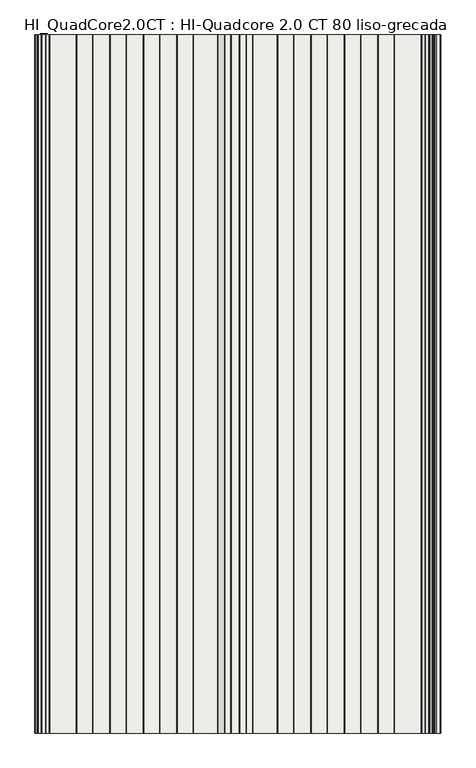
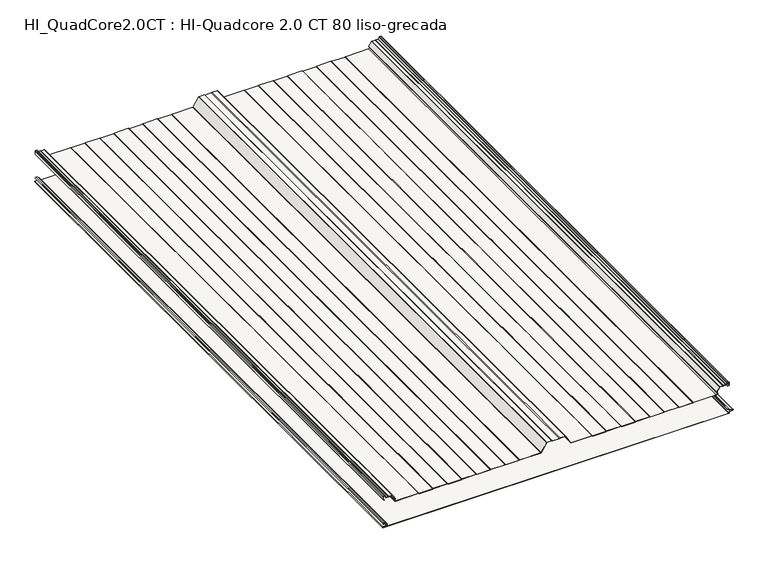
"""IFC4 building model written with IfcOpenShell, lengths in millimetres: slab geometry, HI_QuadCore2.0CT : HI-Quadcore 2.0 CT 80 liso-grecada."""

from ifc_helpers import new_model, si_unit, point, frame, frame_2d, origin, place, context, project, spatial, polyline, circle_curve, trimmed, segment, composite_curve, outline, extrude, source, transform, mapped, element, save
from ifc_brep_helpers import plane_surface, cylinder_surface, revolved_surface, advanced_brep


def hi_quadcore2_0ct_hi_quadcore_2_0_ct_80_liso_grecada_a5f406dc(model_context):
    return source(origin(), model_context, "Body", "SolidModel", [
        advanced_brep(
        [(1153.6125412, 0.0, 16.239302), (1151.6320413, 0.0, 14.2588021), (1153.3026044, 0.0, 12.2960661), (1161.7027672, 0.0, 10.9645747), (1161.6806488, 0.0, 5.2720118), (1151.7277556, 0.0, 3.7755366), (1152.0100062, 0.0, 0.0), (2297.9590685, 0.0, 0.0), (2300.1391392, 0.0, 2.1800708), (2302.6636211, 0.0, 5.0353254), (2310.9083654, 0.0, 6.0356531), (2310.9083654, 0.0, 10.2043469), (2300.9419234, 0.0, 11.413338), (2298.6324398, 0.0, 14.0237344), (2297.5187526, 0.0, 16.24), (2292.7624398, 0.0, 16.24), (2292.7624398, 0.0, 15.44), (2297.2282701, 0.0, 15.44), (2297.8324398, 0.0, 14.0237344), (2300.8450446, 0.0, 10.6192254), (2310.7843299, 0.0, 9.4135286), (2310.7843221, 0.0, 6.8264698), (2302.5664905, 0.0, 5.8294074), (2299.3391392, 0.0, 2.1800708), (2297.9590685, 0.0, 0.8), (1152.0100062, 0.0, 0.8), (1151.8467032, 0.0, 2.9844289), (1161.7995989, 0.0, 4.4809044), (1161.8278581, 0.0, 11.7547343), (1153.4279307, 0.0, 13.084535), (1152.4319301, 0.0, 14.2584682), (1153.6125693, 0.0, 15.4391074), (1157.510215, 0.0, 15.4391074), (1157.510215, 0.0, 16.239302), (1153.6125412, 2000.0, 16.239302), (1157.510215, 2000.0, 16.239302), (1157.510215, 2000.0, 15.4391074), (1153.6125693, 2000.0, 15.4391074), (1152.4319301, 2000.0, 14.2584682), (1153.4276302, 2000.0, 13.0866965), (1161.8278581, 2000.0, 11.7547343), (1161.7995989, 2000.0, 4.4809044), (1151.8467032, 2000.0, 2.9844289), (1152.0100062, 2000.0, 0.8), (2297.9590685, 2000.0, 0.8), (2299.3391392, 2000.0, 2.1800708), (2302.5664905, 2000.0, 5.8294074), (2310.7843221, 2000.0, 6.8264698), (2310.7843299, 2000.0, 9.4135286), (2300.8450446, 2000.0, 10.6192254), (2297.8324398, 2000.0, 14.0237344), (2297.2282701, 2000.0, 15.44), (2292.7624398, 2000.0, 15.44), (2292.7624398, 2000.0, 16.24), (2297.5187526, 2000.0, 16.24), (2298.6324398, 2000.0, 14.0237344), (2300.9419234, 2000.0, 11.413338), (2310.9083654, 2000.0, 10.2043469), (2310.9083654, 2000.0, 6.0356531), (2302.6636211, 2000.0, 5.0353254), (2300.1391392, 2000.0, 2.1800708), (2297.9590685, 2000.0, 0.0), (1152.0100062, 2000.0, 0.0), (1151.7277556, 2000.0, 3.7755366), (1161.6806488, 2000.0, 5.2720118), (1161.7027672, 2000.0, 10.9645747), (1153.3028397, 2000.0, 12.2943753), (1151.6320413, 2000.0, 14.2588021)],
        [
            (0, 1, circle_curve(frame((1153.6125412, 0.0, 14.2588021), z_axis=(0.0, -1.0, 0.0), x_axis=(1.0, 0.0, 0.0)), 1.9804999)),
            (1, 2, circle_curve(frame((1153.612237, 0.0, 14.2519163), z_axis=(0.0, -1.0, 0.0), x_axis=(1.0, 0.0, 0.0)), 1.9802076)),
            (2, 3),
            (3, 4, circle_curve(frame((1161.2524398, 0.0, 8.12), z_axis=(0.0, 1.0, 0.0), x_axis=(1.0, 0.0, 0.0)), 2.88)),
            (4, 5),
            (5, 6, circle_curve(frame((1152.0100062, 0.0, 1.8983185), z_axis=(0.0, -1.0, 0.0), x_axis=(1.0, 0.0, 0.0)), 1.8983185)),
            (6, 7),
            (7, 8, circle_curve(frame((2297.9590685, 0.0, 2.1800708), z_axis=(0.0, -1.0, 0.0), x_axis=(1.0, 0.0, 0.0)), 2.1800708)),
            (8, 9, circle_curve(frame((2303.0160638, 0.0, 2.1800708), z_axis=(0.0, 1.0, 0.0), x_axis=(1.0, 0.0, 0.0)), 2.8769246)),
            (9, 10),
            (10, 11, circle_curve(frame((2310.5224398, 0.0, 8.12), z_axis=(0.0, -1.0, 0.0), x_axis=(1.0, 0.0, 0.0)), 2.1197737)),
            (11, 12),
            (12, 13, circle_curve(frame((2301.2624398, 0.0, 14.0237344), z_axis=(0.0, 1.0, 0.0), x_axis=(1.0, 0.0, 0.0)), 2.63)),
            (13, 14, circle_curve(frame((2295.8703839, 0.0, 14.0237344), z_axis=(0.0, -1.0, 0.0), x_axis=(1.0, 0.0, 0.0)), 2.7620559)),
            (14, 15),
            (15, 16),
            (16, 17),
            (17, 18, circle_curve(frame((2295.8703839, 0.0, 14.0237344), z_axis=(0.0, 1.0, 0.0), x_axis=(1.0, 0.0, 0.0)), 1.9620559)),
            (18, 19, circle_curve(frame((2301.2624398, 0.0, 14.0237344), z_axis=(0.0, -1.0, 0.0), x_axis=(1.0, 0.0, 0.0)), 3.43)),
            (19, 20),
            (20, 21, circle_curve(frame((2310.5224398, 0.0, 8.12), z_axis=(0.0, 1.0, 0.0), x_axis=(1.0, 0.0, 0.0)), 1.3197737)),
            (21, 22),
            (22, 23, circle_curve(frame((2303.0160638, 0.0, 2.1800708), z_axis=(0.0, -1.0, 0.0), x_axis=(1.0, 0.0, 0.0)), 3.6769246)),
            (23, 24, circle_curve(frame((2297.9590685, 0.0, 2.1800708), z_axis=(0.0, 1.0, 0.0), x_axis=(1.0, 0.0, 0.0)), 1.3800708)),
            (24, 25),
            (25, 26, circle_curve(frame((1152.0100062, 0.0, 1.8983185), z_axis=(0.0, 1.0, 0.0), x_axis=(1.0, 0.0, 0.0)), 1.0983185)),
            (26, 27),
            (27, 28, circle_curve(frame((1161.2524398, 0.0, 8.12), z_axis=(0.0, -1.0, 0.0), x_axis=(1.0, 0.0, 0.0)), 3.68)),
            (28, 29),
            (29, 30, circle_curve(frame((1153.6121809, 0.0, 14.2524448), z_axis=(0.0, 1.0, 0.0), x_axis=(1.0, 0.0, 0.0)), 1.1802661)),
            (30, 31, circle_curve(frame((1153.6125693, 0.0, 14.2584682), z_axis=(0.0, 1.0, 0.0), x_axis=(1.0, 0.0, 0.0)), 1.1806391)),
            (31, 32),
            (32, 33),
            (33, 0),
            (34, 35),
            (35, 36),
            (36, 37),
            (37, 38, circle_curve(frame((1153.6125693, 2000.0, 14.2584682), z_axis=(0.0, -1.0, 0.0), x_axis=(1.0, 0.0, 0.0)), 1.1806391)),
            (38, 39, circle_curve(frame((1153.6121809, 2000.0, 14.2524448), z_axis=(0.0, -1.0, 0.0), x_axis=(1.0, 0.0, 0.0)), 1.1802661)),
            (39, 40),
            (40, 41, circle_curve(frame((1161.2524398, 2000.0, 8.12), z_axis=(0.0, 1.0, 0.0), x_axis=(1.0, 0.0, 0.0)), 3.68)),
            (41, 42),
            (42, 43, circle_curve(frame((1152.0100062, 2000.0, 1.8983185), z_axis=(0.0, -1.0, 0.0), x_axis=(1.0, 0.0, 0.0)), 1.0983185)),
            (43, 44),
            (44, 45, circle_curve(frame((2297.9590685, 2000.0, 2.1800708), z_axis=(0.0, -1.0, 0.0), x_axis=(1.0, 0.0, 0.0)), 1.3800708)),
            (45, 46, circle_curve(frame((2303.0160638, 2000.0, 2.1800708), z_axis=(0.0, 1.0, 0.0), x_axis=(1.0, 0.0, 0.0)), 3.6769246)),
            (46, 47),
            (47, 48, circle_curve(frame((2310.5224398, 2000.0, 8.12), z_axis=(0.0, -1.0, 0.0), x_axis=(1.0, 0.0, 0.0)), 1.3197737)),
            (48, 49),
            (49, 50, circle_curve(frame((2301.2624398, 2000.0, 14.0237344), z_axis=(0.0, 1.0, 0.0), x_axis=(1.0, 0.0, 0.0)), 3.43)),
            (50, 51, circle_curve(frame((2295.8703839, 2000.0, 14.0237344), z_axis=(0.0, -1.0, 0.0), x_axis=(1.0, 0.0, 0.0)), 1.9620559)),
            (51, 52),
            (52, 53),
            (53, 54),
            (54, 55, circle_curve(frame((2295.8703839, 2000.0, 14.0237344), z_axis=(0.0, 1.0, 0.0), x_axis=(1.0, 0.0, 0.0)), 2.7620559)),
            (55, 56, circle_curve(frame((2301.2624398, 2000.0, 14.0237344), z_axis=(0.0, -1.0, 0.0), x_axis=(1.0, 0.0, 0.0)), 2.63)),
            (56, 57),
            (57, 58, circle_curve(frame((2310.5224398, 2000.0, 8.12), z_axis=(0.0, 1.0, 0.0), x_axis=(1.0, 0.0, 0.0)), 2.1197737)),
            (58, 59),
            (59, 60, circle_curve(frame((2303.0160638, 2000.0, 2.1800708), z_axis=(0.0, -1.0, 0.0), x_axis=(1.0, 0.0, 0.0)), 2.8769246)),
            (60, 61, circle_curve(frame((2297.9590685, 2000.0, 2.1800708), z_axis=(0.0, 1.0, 0.0), x_axis=(1.0, 0.0, 0.0)), 2.1800708)),
            (61, 62),
            (62, 63, circle_curve(frame((1152.0100062, 2000.0, 1.8983185), z_axis=(0.0, 1.0, 0.0), x_axis=(1.0, 0.0, 0.0)), 1.8983185)),
            (63, 64),
            (64, 65, circle_curve(frame((1161.2524398, 2000.0, 8.12), z_axis=(0.0, -1.0, 0.0), x_axis=(1.0, 0.0, 0.0)), 2.88)),
            (65, 66),
            (66, 67, circle_curve(frame((1153.612237, 2000.0, 14.2519163), z_axis=(0.0, 1.0, 0.0), x_axis=(1.0, 0.0, 0.0)), 1.9802076)),
            (67, 34, circle_curve(frame((1153.6125412, 2000.0, 14.2588021), z_axis=(0.0, 1.0, 0.0), x_axis=(1.0, 0.0, 0.0)), 1.9804999)),
            (0, 34),
            (67, 1),
            (66, 2),
            (65, 3),
            (64, 4),
            (63, 5),
            (62, 6),
            (61, 7),
            (60, 8),
            (59, 9),
            (58, 10),
            (57, 11),
            (56, 12),
            (55, 13),
            (54, 14),
            (53, 15),
            (52, 16),
            (51, 17),
            (50, 18),
            (49, 19),
            (48, 20),
            (47, 21),
            (46, 22),
            (45, 23),
            (44, 24),
            (43, 25),
            (42, 26),
            (41, 27),
            (40, 28),
            (39, 29),
            (38, 30),
            (37, 31),
            (36, 32),
            (35, 33),
        ],
        [
            plane_surface(frame((1155.5930411, 0.0, 14.2588021), z_axis=(0.0, -1.0, 0.0), x_axis=(0.0, 0.0, 1.0))),
            plane_surface(frame((1155.5930411, 2000.0, 14.2588021), z_axis=(0.0, 1.0, 0.0), x_axis=(0.0, 0.0, -1.0))),
            cylinder_surface(frame((1153.6125412, 2000.0, 14.2588021), z_axis=(0.0, -1.0, 0.0), x_axis=(1.0, 0.0, 0.0)), 1.9804999),
            cylinder_surface(frame((1153.612237, 2000.0, 14.2519163), z_axis=(0.0, -1.0, 0.0), x_axis=(1.0, 0.0, 0.0)), 1.9802076),
            plane_surface(frame((1153.3028397, 0.0, 12.2943753), z_axis=(-0.15636367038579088, 0.0, -0.9876995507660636), x_axis=(0.0, 1.0, 0.0))),
            revolved_surface(polyline([(1164.1324398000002, 2000.0, 8.12), (1164.1324398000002, 0.0, 8.12)]), (1161.2524398, 2000.0, 8.12), (0.0, 1.0, 0.0)),
            plane_surface(frame((1161.6806488, 0.0, 5.2720118), z_axis=(-0.14868453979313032, 0.0, 0.9888846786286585), x_axis=(0.0, 1.0, 0.0))),
            cylinder_surface(frame((1152.0100062, 2000.0, 1.8983185), z_axis=(0.0, -1.0, 0.0), x_axis=(1.0, 0.0, 0.0)), 1.8983185),
            plane_surface(frame((1152.0100062, 0.0, 0.0), z_axis=(0.0, 0.0, -1.0), x_axis=(0.0, 1.0, 0.0))),
            cylinder_surface(frame((2297.9590685, 2000.0, 2.1800708), z_axis=(0.0, -1.0, 0.0), x_axis=(1.0, 0.0, 0.0)), 2.1800708),
            revolved_surface(polyline([(2305.8929884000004, 2000.0, 2.1800708), (2305.8929884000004, 0.0, 2.1800708)]), (2303.0160638, 2000.0, 2.1800708), (0.0, 1.0, 0.0)),
            plane_surface(frame((2302.6636211, 0.0, 5.0353254), z_axis=(0.12044584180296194, 0.0, -0.9927198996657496), x_axis=(0.0, 1.0, 0.0))),
            cylinder_surface(frame((2310.5224398, 2000.0, 8.12), z_axis=(0.0, -1.0, 0.0), x_axis=(1.0, 0.0, 0.0)), 2.1197737),
            plane_surface(frame((2310.9083654, 0.0, 10.2043469), z_axis=(0.12042339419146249, 0.0, 0.9927226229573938), x_axis=(0.0, 1.0, 0.0))),
            revolved_surface(polyline([(2303.8924398, 2000.0, 14.0237344), (2303.8924398, 0.0, 14.0237344)]), (2301.2624398, 2000.0, 14.0237344), (0.0, 1.0, 0.0)),
            cylinder_surface(frame((2295.8703839, 2000.0, 14.0237344), z_axis=(0.0, -1.0, 0.0), x_axis=(1.0, 0.0, 0.0)), 2.7620559),
            plane_surface(frame((2297.5187526, 0.0, 16.24), z_axis=(0.0, 0.0, 1.0), x_axis=(0.0, 1.0, 0.0))),
            plane_surface(frame((2292.7624398, 0.0, 16.24), z_axis=(-1.0, 0.0, 0.0), x_axis=(0.0, 1.0, 0.0))),
            plane_surface(frame((2292.7624398, 0.0, 15.44), z_axis=(0.0, 0.0, -1.0), x_axis=(0.0, 1.0, 0.0))),
            revolved_surface(polyline([(2297.8324398, 2000.0, 14.0237344), (2297.8324398, 0.0, 14.0237344)]), (2295.8703839, 2000.0, 14.0237344), (0.0, 1.0, 0.0)),
            cylinder_surface(frame((2301.2624398, 2000.0, 14.0237344), z_axis=(0.0, -1.0, 0.0), x_axis=(1.0, 0.0, 0.0)), 3.43),
            plane_surface(frame((2300.8450446, 0.0, 10.6192254), z_axis=(-0.12042339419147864, 0.0, -0.9927226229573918), x_axis=(0.0, 1.0, 0.0))),
            revolved_surface(polyline([(2311.8422135, 2000.0, 8.12), (2311.8422135, 0.0, 8.12)]), (2310.5224398, 2000.0, 8.12), (0.0, 1.0, 0.0)),
            plane_surface(frame((2310.7843221, 0.0, 6.8264698), z_axis=(-0.12044584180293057, 0.0, 0.9927198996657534), x_axis=(0.0, 1.0, 0.0))),
            cylinder_surface(frame((2303.0160638, 2000.0, 2.1800708), z_axis=(0.0, -1.0, 0.0), x_axis=(1.0, 0.0, 0.0)), 3.6769246),
            revolved_surface(polyline([(2299.3391392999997, 2000.0, 2.1800708), (2299.3391392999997, 0.0, 2.1800708)]), (2297.9590685, 2000.0, 2.1800708), (0.0, 1.0, 0.0)),
            plane_surface(frame((2297.9590685, 0.0, 0.8), z_axis=(0.0, 0.0, 1.0), x_axis=(0.0, 1.0, 0.0))),
            revolved_surface(polyline([(1153.1083247, 2000.0, 1.8983185), (1153.1083247, 0.0, 1.8983185)]), (1152.0100062, 2000.0, 1.8983185), (0.0, 1.0, 0.0)),
            plane_surface(frame((1151.8467032, 0.0, 2.9844289), z_axis=(0.14868453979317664, 0.0, -0.9888846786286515), x_axis=(0.0, 1.0, 0.0))),
            cylinder_surface(frame((1161.2524398, 2000.0, 8.12), z_axis=(0.0, -1.0, 0.0), x_axis=(1.0, 0.0, 0.0)), 3.68),
            plane_surface(frame((1161.8278581, 0.0, 11.7547343), z_axis=(0.15636367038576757, 0.0, 0.9876995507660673), x_axis=(0.0, 1.0, 0.0))),
            revolved_surface(polyline([(1154.792447, 2000.0, 14.2524448), (1154.792447, 0.0, 14.2524448)]), (1153.6121809, 2000.0, 14.2524448), (0.0, 1.0, 0.0)),
            revolved_surface(polyline([(1154.7932084, 2000.0, 14.2584682), (1154.7932084, 0.0, 14.2584682)]), (1153.6125693, 2000.0, 14.2584682), (0.0, 1.0, 0.0)),
            plane_surface(frame((1153.6125693, 0.0, 15.4391074), z_axis=(0.0, 0.0, -1.0), x_axis=(0.0, 1.0, 0.0))),
            plane_surface(frame((1157.510215, 0.0, 15.4391074), z_axis=(1.0, 0.0, 0.0), x_axis=(0.0, 1.0, 0.0))),
            plane_surface(frame((1157.510215, 0.0, 16.239302), z_axis=(0.0, 0.0, 1.0), x_axis=(0.0, 1.0, 0.0))),
        ],
        [
            (0, [[1, 2, 3, 4, 5, 6, 7, 8, 9, 10, 11, 12, 13, 14, 15, 16, 17, 18, 19, 20, 21, 22, 23, 24, 25, 26, 27, 28, 29, 30, 31, 32, 33, 34]]),
            (1, [[35, 36, 37, 38, 39, 40, 41, 42, 43, 44, 45, 46, 47, 48, 49, 50, 51, 52, 53, 54, 55, 56, 57, 58, 59, 60, 61, 62, 63, 64, 65, 66, 67, 68]]),
            (2, [[-1, 69, -68, 70]]),
            (3, [[-2, -70, -67, 71]]),
            (4, [[-3, -71, -66, 72]]),
            (5, [[-4, -72, -65, 73]]),
            (6, [[-5, -73, -64, 74]]),
            (7, [[-6, -74, -63, 75]]),
            (8, [[-7, -75, -62, 76]]),
            (9, [[-8, -76, -61, 77]]),
            (10, [[-9, -77, -60, 78]]),
            (11, [[-10, -78, -59, 79]]),
            (12, [[-11, -79, -58, 80]]),
            (13, [[-12, -80, -57, 81]]),
            (14, [[-13, -81, -56, 82]]),
            (15, [[-14, -82, -55, 83]]),
            (16, [[-15, -83, -54, 84]]),
            (17, [[-16, -84, -53, 85]]),
            (18, [[-17, -85, -52, 86]]),
            (19, [[-18, -86, -51, 87]]),
            (20, [[-19, -87, -50, 88]]),
            (21, [[-20, -88, -49, 89]]),
            (22, [[-21, -89, -48, 90]]),
            (23, [[-22, -90, -47, 91]]),
            (24, [[-23, -91, -46, 92]]),
            (25, [[-24, -92, -45, 93]]),
            (26, [[-25, -93, -44, 94]]),
            (27, [[-26, -94, -43, 95]]),
            (28, [[-27, -95, -42, 96]]),
            (29, [[-28, -96, -41, 97]]),
            (30, [[-29, -97, -40, 98]]),
            (31, [[-30, -98, -39, 99]]),
            (32, [[-31, -99, -38, 100]]),
            (33, [[-32, -100, -37, 101]]),
            (34, [[-33, -101, -36, 102]]),
            (35, [[-34, -102, -35, -69]]),
        ],
    ),
        extrude(outline(composite_curve([segment(polyline([(97.9163804, 1151.3824194), (95.7425833, 1155.1475465), (96.4354036, 1155.5475465), (98.6669358, 1151.6824194), (108.1, 1151.6824194)]), True, "CONTINUOUS"), segment(trimmed(circle_curve(frame_2d((108.1, 1152.7824194)), 1.1), [point((108.1, 1151.6824194))], [point((109.2, 1152.7824194))], True, "CARTESIAN"), True, "CONTINUOUS"), segment(polyline([(109.2, 1152.7824194), (109.2, 1156.3760168)]), True, "CONTINUOUS"), segment(trimmed(circle_curve(frame_2d((108.1, 1156.3760168)), 1.1), [point((109.2, 1156.3760168))], [point((108.5209518, 1157.3922843))], True, "CARTESIAN"), True, "CONTINUOUS"), segment(polyline([(108.5209518, 1157.3922843), (104.0383476, 1159.2490397)]), True, "CONTINUOUS"), segment(trimmed(circle_curve(frame_2d((104.93, 1161.4016791)), 2.33), [point((104.0383476, 1159.2490397))], [point((102.6, 1161.4016791))], False, "CARTESIAN"), True, "CONTINUOUS"), segment(polyline([(102.6, 1161.4016791), (102.6, 1168.1276514), (101.8110374, 1169.8324194), (102.6, 1171.5371875), (102.6, 1180.8643848)]), True, "CONTINUOUS"), segment(trimmed(circle_curve(frame_2d((101.5, 1180.8643848)), 1.1), [point((102.6, 1180.8643848))], [point((102.1230469, 1181.7709236))], True, "CARTESIAN"), True, "CONTINUOUS"), segment(polyline([(102.1230469, 1181.7709236), (88.5361221, 1191.1089583)]), True, "CONTINUOUS"), segment(trimmed(circle_curve(frame_2d((87.9130752, 1190.2024195)), 1.1), [point((88.5361221, 1191.1089583))], [point((87.0692788, 1190.9081159))], True, "CARTESIAN"), True, "CONTINUOUS"), segment(polyline([(87.0692788, 1190.9081159), (86.2744555, 1189.9577511)]), True, "CONTINUOUS"), segment(trimmed(circle_curve(frame_2d((83.3, 1192.7795617)), 4.1), [point((86.2744555, 1189.9577511))], [point((79.2, 1192.7795617))], False, "CARTESIAN"), True, "CONTINUOUS"), segment(polyline([(79.2, 1192.7795617), (79.2, 1268.8832267), (78.2, 1270.6152775), (78.2, 1315.6495614), (79.2, 1317.3816122), (79.2, 1364.8832267), (78.2, 1366.6152775), (78.2, 1411.6495614), (79.2, 1413.3816122), (79.2, 1460.8832267), (78.2, 1462.6152775), (78.2, 1507.6495614), (79.2, 1509.3816122), (79.2, 1556.8832267), (78.2, 1558.6152775), (78.2, 1603.6495614), (79.2, 1605.3816122), (79.2, 1674.3619266)]), True, "CONTINUOUS"), segment(trimmed(circle_curve(frame_2d((81.53, 1674.3619266)), 2.33), [point((79.2, 1674.3619266))], [point((80.2833287, 1676.330355))], False, "CARTESIAN"), True, "CONTINUOUS"), segment(polyline([(80.2833287, 1676.330355), (108.6885573, 1694.3203331)]), True, "CONTINUOUS"), segment(trimmed(circle_curve(frame_2d((108.1, 1695.2496341)), 1.1), [point((108.6885573, 1694.3203331))], [point((109.2, 1695.2496341))], True, "CARTESIAN"), True, "CONTINUOUS"), segment(polyline([(109.2, 1695.2496341), (109.2, 1711.3832267), (107.7, 1713.9813029), (107.7, 1736.283536), (109.2, 1738.8816122), (109.2, 1755.0152048)]), True, "CONTINUOUS"), segment(trimmed(circle_curve(frame_2d((108.1, 1755.0152048)), 1.1), [point((109.2, 1755.0152048))], [point((108.6885573, 1755.9445057))], True, "CARTESIAN"), True, "CONTINUOUS"), segment(polyline([(108.6885573, 1755.9445057), (80.2833287, 1773.9344839)]), True, "CONTINUOUS"), segment(trimmed(circle_curve(frame_2d((81.53, 1775.9029123)), 2.33), [point((80.2833287, 1773.9344839))], [point((79.2, 1775.9029123))], False, "CARTESIAN"), True, "CONTINUOUS"), segment(polyline([(79.2, 1775.9029123), (79.2, 1844.8832267), (78.2, 1846.6152775), (78.2, 1891.6495614), (79.2, 1893.3816122), (79.2, 1940.8832267), (78.2, 1942.6152775), (78.2, 1987.6495614), (79.2, 1989.3816122), (79.2, 2036.8832267), (78.2, 2038.6152775), (78.2, 2083.6495614), (79.2, 2085.3816122), (79.2, 2132.8832267), (78.2, 2134.6152775), (78.2, 2179.6495614), (79.2, 2181.3816122), (79.2, 2257.4852773)]), True, "CONTINUOUS"), segment(trimmed(circle_curve(frame_2d((83.3, 2257.4852773)), 4.1), [point((79.2, 2257.4852773))], [point((86.2744554, 2260.3070878))], False, "CARTESIAN"), True, "CONTINUOUS"), segment(polyline([(86.2744554, 2260.3070878), (87.0692788, 2259.356723)]), True, "CONTINUOUS"), segment(trimmed(circle_curve(frame_2d((87.9130753, 2260.0624194)), 1.1), [point((87.0692788, 2259.356723))], [point((88.5361221, 2259.1558806))], True, "CARTESIAN"), True, "CONTINUOUS"), segment(polyline([(88.5361221, 2259.1558806), (102.1230469, 2268.4939153)]), True, "CONTINUOUS"), segment(trimmed(circle_curve(frame_2d((101.5, 2269.4004541)), 1.1), [point((102.1230469, 2268.4939153))], [point((102.6, 2269.4004541))], True, "CARTESIAN"), True, "CONTINUOUS"), segment(polyline([(102.6, 2269.4004541), (102.6, 2278.7276514), (101.8110374, 2280.4324194), (102.6, 2282.1371875), (102.6, 2288.8631598)]), True, "CONTINUOUS"), segment(trimmed(circle_curve(frame_2d((104.93, 2288.8631598)), 2.33), [point((102.6, 2288.8631598))], [point((104.0383476, 2291.0157992))], False, "CARTESIAN"), True, "CONTINUOUS"), segment(polyline([(104.0383476, 2291.0157992), (108.5209518, 2292.8725546)]), True, "CONTINUOUS"), segment(trimmed(circle_curve(frame_2d((108.1, 2293.8888221)), 1.1), [point((108.5209518, 2292.8725546))], [point((109.2, 2293.8888221))], True, "CARTESIAN"), True, "CONTINUOUS"), segment(polyline([(109.2, 2293.8888221), (109.2, 2297.4824194)]), True, "CONTINUOUS"), segment(trimmed(circle_curve(frame_2d((108.1, 2297.4824194)), 1.1), [point((109.2, 2297.4824194))], [point((108.1, 2298.5824194))], True, "CARTESIAN"), True, "CONTINUOUS"), segment(polyline([(108.1, 2298.5824194), (98.6669358, 2298.5824194), (96.4354036, 2294.7172924), (95.7425833, 2295.1172924), (97.9163804, 2298.8824194)]), True, "CONTINUOUS"), segment(trimmed(circle_curve(frame_2d((98.7824058, 2298.3824194)), 1.0), [point((97.9163804, 2298.8824194))], [point((98.7824058, 2299.3824194))], False, "CARTESIAN"), True, "CONTINUOUS"), segment(polyline([(98.7824058, 2299.3824194), (108.1, 2299.3824194)]), True, "CONTINUOUS"), segment(trimmed(circle_curve(frame_2d((108.1, 2297.4824194)), 1.9), [point((108.1, 2299.3824194))], [point((110.0, 2297.4824194))], False, "CARTESIAN"), True, "CONTINUOUS"), segment(polyline([(110.0, 2297.4824194), (110.0, 2293.8888221)]), True, "CONTINUOUS"), segment(trimmed(circle_curve(frame_2d((108.1, 2293.8888221)), 1.9), [point((110.0, 2293.8888221))], [point((108.8270985, 2292.133451))], False, "CARTESIAN"), True, "CONTINUOUS"), segment(polyline([(108.8270985, 2292.133451), (104.3444944, 2290.2766955)]), True, "CONTINUOUS"), segment(trimmed(circle_curve(frame_2d((104.93, 2288.8631598)), 1.53), [point((104.3444944, 2290.2766955))], [point((103.4, 2288.8631598))], True, "CARTESIAN"), True, "CONTINUOUS"), segment(polyline([(103.4, 2288.8631598), (103.4, 2281.9610429), (102.6925567, 2280.4324194), (103.4, 2278.903796), (103.4, 2269.4004541)]), True, "CONTINUOUS"), segment(trimmed(circle_curve(frame_2d((101.5, 2269.4004541)), 1.9), [point((103.4, 2269.4004541))], [point((102.5761719, 2267.8346144))], False, "CARTESIAN"), True, "CONTINUOUS"), segment(polyline([(102.5761719, 2267.8346144), (88.9892471, 2258.4965797)]), True, "CONTINUOUS"), segment(trimmed(circle_curve(frame_2d((87.9130753, 2260.0624194)), 1.9), [point((88.9892471, 2258.4965797))], [point((86.4556086, 2258.8434892))], False, "CARTESIAN"), True, "CONTINUOUS"), segment(polyline([(86.4556086, 2258.8434892), (85.6777166, 2259.7736094)]), True, "CONTINUOUS"), segment(trimmed(circle_curve(frame_2d((83.3, 2257.4852773)), 3.3), [point((85.6777166, 2259.7736094))], [point((80.0, 2257.4852773))], True, "CARTESIAN"), True, "CONTINUOUS"), segment(polyline([(80.0, 2257.4852773), (80.0, 2181.5691766)]), True, "CONTINUOUS"), segment(trimmed(circle_curve(frame_2d((78.5, 2181.5691766)), 1.5), [point((80.0, 2181.5691766))], [point((79.7990381, 2180.8191766))], False, "CARTESIAN"), True, "CONTINUOUS"), segment(polyline([(79.7990381, 2180.8191766), (79.0, 2179.435202), (79.0, 2134.8296369), (79.7990381, 2133.4456623)]), True, "CONTINUOUS"), segment(trimmed(circle_curve(frame_2d((78.5, 2132.6956623)), 1.5), [point((79.7990381, 2133.4456623))], [point((80.0, 2132.6956623))], False, "CARTESIAN"), True, "CONTINUOUS"), segment(polyline([(80.0, 2132.6956623), (80.0, 2085.5691766)]), True, "CONTINUOUS"), segment(trimmed(circle_curve(frame_2d((78.5, 2085.5691766)), 1.5), [point((80.0, 2085.5691766))], [point((79.7990381, 2084.8191766))], False, "CARTESIAN"), True, "CONTINUOUS"), segment(polyline([(79.7990381, 2084.8191766), (79.0, 2083.435202), (79.0, 2038.8296369), (79.7990381, 2037.4456623)]), True, "CONTINUOUS"), segment(trimmed(circle_curve(frame_2d((78.5, 2036.6956623)), 1.5), [point((79.7990381, 2037.4456623))], [point((80.0, 2036.6956623))], False, "CARTESIAN"), True, "CONTINUOUS"), segment(polyline([(80.0, 2036.6956623), (80.0, 1989.5691766)]), True, "CONTINUOUS"), segment(trimmed(circle_curve(frame_2d((78.5, 1989.5691766)), 1.5), [point((80.0, 1989.5691766))], [point((79.7990381, 1988.8191766))], False, "CARTESIAN"), True, "CONTINUOUS"), segment(polyline([(79.7990381, 1988.8191766), (79.0, 1987.435202), (79.0, 1942.8296369), (79.7990381, 1941.4456623)]), True, "CONTINUOUS"), segment(trimmed(circle_curve(frame_2d((78.5, 1940.6956623)), 1.5), [point((79.7990381, 1941.4456623))], [point((80.0, 1940.6956623))], False, "CARTESIAN"), True, "CONTINUOUS"), segment(polyline([(80.0, 1940.6956623), (80.0, 1893.5691766)]), True, "CONTINUOUS"), segment(trimmed(circle_curve(frame_2d((78.5, 1893.5691766)), 1.5), [point((80.0, 1893.5691766))], [point((79.7990381, 1892.8191766))], False, "CARTESIAN"), True, "CONTINUOUS"), segment(polyline([(79.7990381, 1892.8191766), (79.0, 1891.435202), (79.0, 1846.8296369), (79.7990381, 1845.4456623)]), True, "CONTINUOUS"), segment(trimmed(circle_curve(frame_2d((78.5, 1844.6956623)), 1.5), [point((79.7990381, 1845.4456623))], [point((80.0, 1844.6956623))], False, "CARTESIAN"), True, "CONTINUOUS"), segment(polyline([(80.0, 1844.6956623), (80.0, 1775.9029123)]), True, "CONTINUOUS"), segment(trimmed(circle_curve(frame_2d((81.53, 1775.9029123)), 1.53), [point((80.0, 1775.9029123))], [point((80.7113703, 1774.6103391))], True, "CARTESIAN"), True, "CONTINUOUS"), segment(polyline([(80.7113703, 1774.6103391), (109.116599, 1756.620361)]), True, "CONTINUOUS"), segment(trimmed(circle_curve(frame_2d((108.1, 1755.0152048)), 1.9), [point((109.116599, 1756.620361))], [point((110.0, 1755.0152048))], False, "CARTESIAN"), True, "CONTINUOUS"), segment(polyline([(110.0, 1755.0152048), (110.0, 1738.6672528), (108.5, 1736.0691766), (108.5, 1714.1956623), (110.0, 1711.5975861), (110.0, 1695.2496341)]), True, "CONTINUOUS"), segment(trimmed(circle_curve(frame_2d((108.1, 1695.2496341)), 1.9), [point((110.0, 1695.2496341))], [point((109.116599, 1693.6444779))], False, "CARTESIAN"), True, "CONTINUOUS"), segment(polyline([(109.116599, 1693.6444779), (80.7113703, 1675.6544998)]), True, "CONTINUOUS"), segment(trimmed(circle_curve(frame_2d((81.53, 1674.3619266)), 1.53), [point((80.7113703, 1675.6544998))], [point((80.0, 1674.3619266))], True, "CARTESIAN"), True, "CONTINUOUS"), segment(polyline([(80.0, 1674.3619266), (80.0, 1605.5691766)]), True, "CONTINUOUS"), segment(trimmed(circle_curve(frame_2d((78.5, 1605.5691766)), 1.5), [point((80.0, 1605.5691766))], [point((79.7990381, 1604.8191766))], False, "CARTESIAN"), True, "CONTINUOUS"), segment(polyline([(79.7990381, 1604.8191766), (79.0, 1603.435202), (79.0, 1558.8296369), (79.7990381, 1557.4456623)]), True, "CONTINUOUS"), segment(trimmed(circle_curve(frame_2d((78.5, 1556.6956623)), 1.5), [point((79.7990381, 1557.4456623))], [point((80.0, 1556.6956623))], False, "CARTESIAN"), True, "CONTINUOUS"), segment(polyline([(80.0, 1556.6956623), (80.0, 1509.5691766)]), True, "CONTINUOUS"), segment(trimmed(circle_curve(frame_2d((78.5, 1509.5691766)), 1.5), [point((80.0, 1509.5691766))], [point((79.7990381, 1508.8191766))], False, "CARTESIAN"), True, "CONTINUOUS"), segment(polyline([(79.7990381, 1508.8191766), (79.0, 1507.435202), (79.0, 1462.8296369), (79.7990381, 1461.4456623)]), True, "CONTINUOUS"), segment(trimmed(circle_curve(frame_2d((78.5, 1460.6956623)), 1.5), [point((79.7990381, 1461.4456623))], [point((80.0, 1460.6956623))], False, "CARTESIAN"), True, "CONTINUOUS"), segment(polyline([(80.0, 1460.6956623), (80.0, 1413.5691766)]), True, "CONTINUOUS"), segment(trimmed(circle_curve(frame_2d((78.5, 1413.5691766)), 1.5), [point((80.0, 1413.5691766))], [point((79.7990381, 1412.8191766))], False, "CARTESIAN"), True, "CONTINUOUS"), segment(polyline([(79.7990381, 1412.8191766), (79.0, 1411.435202), (79.0, 1366.8296369), (79.7990381, 1365.4456623)]), True, "CONTINUOUS"), segment(trimmed(circle_curve(frame_2d((78.5, 1364.6956623)), 1.5), [point((79.7990381, 1365.4456623))], [point((80.0, 1364.6956623))], False, "CARTESIAN"), True, "CONTINUOUS"), segment(polyline([(80.0, 1364.6956623), (80.0, 1317.5691766)]), True, "CONTINUOUS"), segment(trimmed(circle_curve(frame_2d((78.5, 1317.5691766)), 1.5), [point((80.0, 1317.5691766))], [point((79.7990381, 1316.8191766))], False, "CARTESIAN"), True, "CONTINUOUS"), segment(polyline([(79.7990381, 1316.8191766), (79.0, 1315.435202), (79.0, 1270.8296369), (79.7990381, 1269.4456623)]), True, "CONTINUOUS"), segment(trimmed(circle_curve(frame_2d((78.5, 1268.6956623)), 1.5), [point((79.7990381, 1269.4456623))], [point((80.0, 1268.6956623))], False, "CARTESIAN"), True, "CONTINUOUS"), segment(polyline([(80.0, 1268.6956623), (80.0, 1192.7795617)]), True, "CONTINUOUS"), segment(trimmed(circle_curve(frame_2d((83.3, 1192.7795617)), 3.3), [point((80.0, 1192.7795617))], [point((85.6777166, 1190.4912296))], True, "CARTESIAN"), True, "CONTINUOUS"), segment(polyline([(85.6777166, 1190.4912296), (86.4556086, 1191.4213497)]), True, "CONTINUOUS"), segment(trimmed(circle_curve(frame_2d((87.9130752, 1190.2024195)), 1.9), [point((86.4556086, 1191.4213497))], [point((88.9892471, 1191.7682592))], False, "CARTESIAN"), True, "CONTINUOUS"), segment(polyline([(88.9892471, 1191.7682592), (102.5761719, 1182.4302246)]), True, "CONTINUOUS"), segment(trimmed(circle_curve(frame_2d((101.5, 1180.8643848)), 1.9), [point((102.5761719, 1182.4302246))], [point((103.4, 1180.8643848))], False, "CARTESIAN"), True, "CONTINUOUS"), segment(polyline([(103.4, 1180.8643848), (103.4, 1171.3610429), (102.6925567, 1169.8324194), (103.4, 1168.303796), (103.4, 1161.4016791)]), True, "CONTINUOUS"), segment(trimmed(circle_curve(frame_2d((104.93, 1161.4016791)), 1.53), [point((103.4, 1161.4016791))], [point((104.3444944, 1159.9881434))], True, "CARTESIAN"), True, "CONTINUOUS"), segment(polyline([(104.3444944, 1159.9881434), (108.8270985, 1158.1313879)]), True, "CONTINUOUS"), segment(trimmed(circle_curve(frame_2d((108.1, 1156.3760168)), 1.9), [point((108.8270985, 1158.1313879))], [point((110.0, 1156.3760168))], False, "CARTESIAN"), True, "CONTINUOUS"), segment(polyline([(110.0, 1156.3760168), (110.0, 1152.7824194)]), True, "CONTINUOUS"), segment(trimmed(circle_curve(frame_2d((108.1, 1152.7824194)), 1.9), [point((110.0, 1152.7824194))], [point((108.1, 1150.8824194))], False, "CARTESIAN"), True, "CONTINUOUS"), segment(polyline([(108.1, 1150.8824194), (98.7824058, 1150.8824194)]), True, "CONTINUOUS"), segment(trimmed(circle_curve(frame_2d((98.7824058, 1151.8824194)), 1.0), [point((98.7824058, 1150.8824194))], [point((97.9163804, 1151.3824194))], False, "CARTESIAN"), True, "CONTINUOUS")], self_intersect=False)), frame((0.0, 0.0, 0.0), z_axis=(0.0, 1.0, 0.0), x_axis=(0.0, 0.0, 1.0)), (0.0, 0.0, 1.0), 2000.0),
    ])


if __name__ == "__main__":
    model = new_model("IFC4")
    model_context = context("Model", 3, world=origin())
    ifc_project = project(units=[si_unit("LENGTHUNIT", "METRE", prefix="MILLI")], contexts=[model_context])
    site = spatial("IfcSite", under=ifc_project)
    building = spatial("IfcBuilding", under=site)
    placement = place(None, origin())
    hi_quadcore2_0ct_hi_quadcore_2_0_ct_80_liso_grecada_shape = hi_quadcore2_0ct_hi_quadcore_2_0_ct_80_liso_grecada_a5f406dc(model_context)
    element("IfcSlab", 1, ObjectType="HI_QuadCore2.0CT : HI-Quadcore 2.0 CT 80 liso-grecada", at=placement, inside=building, context=model_context, shape_type="MappedRepresentation", body=[
        mapped(hi_quadcore2_0ct_hi_quadcore_2_0_ct_80_liso_grecada_shape, transform((0.0, 0.0, 0.0), x_axis=(1.0, 0.0, 0.0), y_axis=(0.0, 1.0, 0.0), z_axis=(0.0, 0.0, 1.0))),
    ])
    save(model, "model.ifc")
